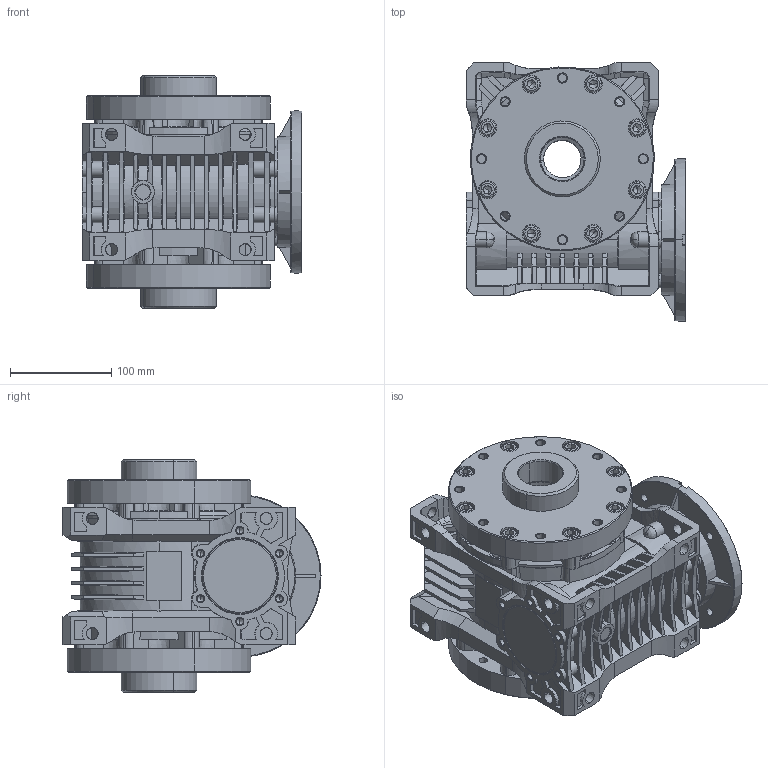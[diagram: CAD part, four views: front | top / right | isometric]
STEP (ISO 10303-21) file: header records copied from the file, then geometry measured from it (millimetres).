
FILE_DESCRIPTION (( 'STEP AP203' ), '1' );
FILE_NAME ('MRP-80_160_28_SP_3D.STEP', '2024-10-29T09:45:35', ( '' ), ( '' ), 'SwSTEP 2.0', 'SolidWorks 2022', '' );
FILE_SCHEMA (( 'CONFIG_CONTROL_DESIGN' ));
Length unit declared in the file: millimetre
Products named in the file (1): MRP-80_160_28_SP_3D
Bounding box: 217 x 255.23 x 230 mm (x, y, z)
Volume: 5313971.2 mm3; surface area: 584044.6 mm2
Topology: 1 solids, 54 shells, 2970 faces, 7715 edges, 4915 vertices
Faces by surface type: plane 1262, cone 937, cylinder 478, torus 165, bspline 128
Entity records: 99077 total; most frequent: CARTESIAN_POINT 28302, ORIENTED_EDGE 15208, DIRECTION 14352, EDGE_CURVE 7604, AXIS2_PLACEMENT_3D 5401, VERTEX_POINT 4915, LINE 3550, VECTOR 3550
